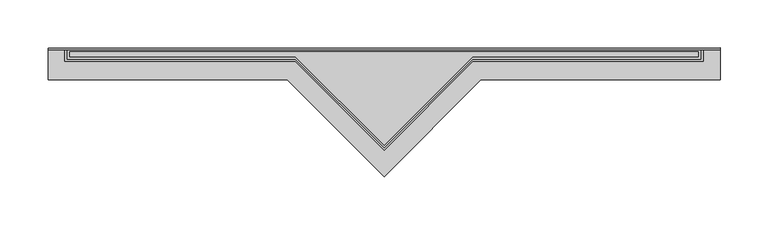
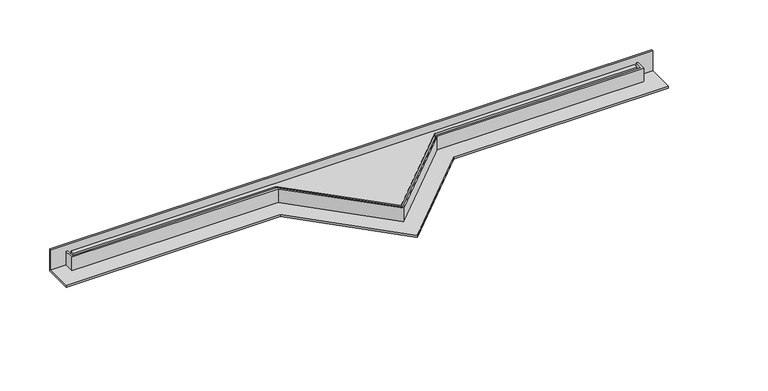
"""IFC4 building model written with IfcOpenShell, lengths in millimetres: sanitary terminal geometry, NLRS_PF_52_UN_S-Line TAF High_Easydrain : S-Line High met M2 ondiep sifonhuis."""

from ifc_helpers import new_model, si_unit, point, frame, frame_2d, origin, place, context, project, spatial, polyline, circle_curve, trimmed, segment, composite_curve, outline, extrude, faceted_brep, source, transform, mapped, element, save


def sanitary_terminal_2194107e(model_context):
    return source(origin(), model_context, "Body", "SolidModel", [
        faceted_brep([(350.0, 33.0, 8.0), (-350.0, 33.0, 8.0), (-350.0, 31.0, 8.0), (350.0, 31.0, 8.0), (-350.0, 31.0, -17.0), (350.0, 31.0, -17.0), (-336.0, 15.5, -24.5), (-336.0, 29.0, -24.5), (336.0, 29.0, -24.5), (336.0, 15.5, -24.5), (96.0, 15.5, -24.5), (0.0, -80.5, -24.5), (-96.0, 15.5, -24.5), (-96.0, 15.5, -19.5), (-336.0, 15.5, -19.5), (-336.0, 29.0, -19.5), (336.0, 29.0, -19.5), (336.0, 15.5, -19.5), (96.0, 15.5, -19.5), (0.0, -80.5, -19.5), (350.0, 33.0, -19.5), (350.0, 0.0, -19.5), (101.0, 0.0, -19.5), (0.0, -101.0, -19.5), (-101.0, 0.0, -19.5), (-350.0, 0.0, -19.5), (-350.0, 33.0, -19.5), (-350.0, 0.0, -17.0), (-101.0, 0.0, -17.0), (0.0, -101.0, -17.0), (101.0, 0.0, -17.0), (350.0, 0.0, -17.0)], [[[0, 1, 2, 3]], [[3, 2, 4, 5]], [[6, 7, 8, 9, 10, 11, 12]], [[6, 12, 13, 14]], [[7, 6, 14, 15]], [[8, 7, 15, 16]], [[9, 8, 16, 17]], [[10, 9, 17, 18]], [[11, 10, 18, 19]], [[12, 11, 19, 13]], [[20, 21, 22, 23, 24, 25, 26], [14, 13, 19, 18, 17, 16, 15]], [[27, 28, 29, 30, 31, 5, 4]], [[20, 26, 1, 0]], [[26, 25, 27, 4, 2, 1]], [[25, 24, 28, 27]], [[24, 23, 29, 28]], [[23, 22, 30, 29]], [[22, 21, 31, 30]], [[21, 20, 0, 3, 5, 31]]]),
        extrude(outline(composite_curve([segment(trimmed(circle_curve(frame_2d((0.0, -21.0)), 25.0), [point((-25.0, -21.0))], [point((25.0, -21.0))], False, "CARTESIAN"), True, "CONTINUOUS"), segment(trimmed(circle_curve(frame_2d((0.0, -21.0)), 25.0), [point((25.0, -21.0))], [point((-25.0, -21.0))], False, "CARTESIAN"), True, "CONTINUOUS")], self_intersect=False)), frame((0.0, 0.0, -24.5), z_axis=(0.0, 0.0, 1.0), x_axis=(1.0, 0.0, 0.0)), (0.0, 0.0, 1.0), 7.5),
        extrude(outline(polyline([(-92.5, 24.0), (-327.5, 24.0), (-327.5, 29.0), (327.5, 29.0), (327.5, 24.0), (92.5, 24.0), (0.0, -68.5), (-92.5, 24.0)])), frame((0.0, 0.0, -17.0), z_axis=(0.0, 0.0, 1.0), x_axis=(1.0, 0.0, 0.0)), (0.0, 0.0, 1.0), 17.0),
        extrude(outline(polyline([(332.5, 33.0), (332.5, 19.0), (92.5, 19.0), (0.0, -73.5), (-92.5, 19.0), (-332.5, 19.0), (-332.5, 33.0), (332.5, 33.0)]), holes=[polyline([(-92.5, 21.5), (0.0, -71.0), (92.5, 21.5), (330.0, 21.5), (330.0, 31.0), (-330.0, 31.0), (-330.0, 21.5), (-92.5, 21.5)])]), frame((0.0, 0.0, -17.0), z_axis=(0.0, 0.0, 1.0), x_axis=(1.0, 0.0, 0.0)), (0.0, 0.0, 1.0), 17.0),
    ])


if __name__ == "__main__":
    model = new_model("IFC4")
    model_context = context("Model", 3, world=origin())
    ifc_project = project(units=[si_unit("LENGTHUNIT", "METRE", prefix="MILLI")], contexts=[model_context])
    site = spatial("IfcSite", under=ifc_project)
    building = spatial("IfcBuilding", under=site)
    placement = place(None, origin())
    sanitary_terminal_shape = sanitary_terminal_2194107e(model_context)
    element("IfcSanitaryTerminal", 1, ObjectType="NLRS_PF_52_UN_S-Line TAF High_Easydrain : S-Line High met M2 ondiep sifonhuis", at=placement, inside=building, context=model_context, shape_type="MappedRepresentation", body=[
        mapped(sanitary_terminal_shape, transform((0.0, 0.0, 0.0), x_axis=(1.0, 0.0, 0.0), y_axis=(0.0, 1.0, 0.0), z_axis=(0.0, 0.0, 1.0))),
    ])
    save(model, "model.ifc")
